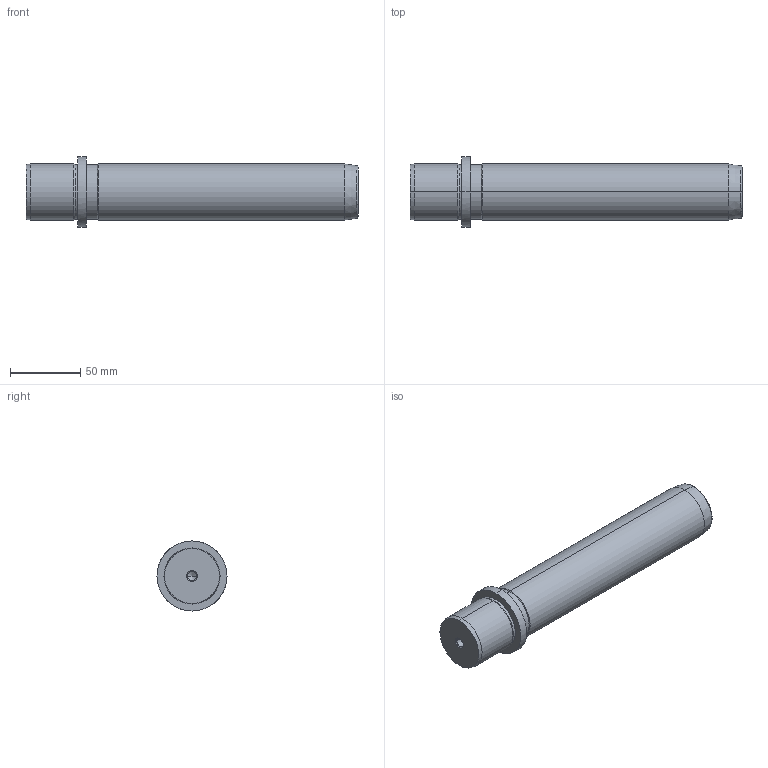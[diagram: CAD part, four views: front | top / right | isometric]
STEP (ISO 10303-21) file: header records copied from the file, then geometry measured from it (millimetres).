
FILE_DESCRIPTION(('CATIA V5 STEP Exchange'),'2;1');
FILE_NAME('C:\Users\Utente\Desktop\IO LAVORO\3D X SITO CF\X SITO\718\718-40x200.stp','2021-01-02T12:41:52+00:00',('none'),('none'),'CATIA Version 5 Release 20 GA (IN-10)','CATIA V5 STEP AP203','none');
FILE_SCHEMA(('CONFIG_CONTROL_DESIGN'));
Length unit declared in the file: millimetre
Products named in the file (1): 718-40x200
Bounding box: 237 x 50 x 50 mm (x, y, z)
Volume: 298804.9 mm3; surface area: 34748.5 mm2
Topology: 1 solids, 1 shells, 36 faces, 100 edges, 66 vertices
Faces by surface type: cone 16, cylinder 14, plane 4, torus 2
Entity records: 1291 total; most frequent: CARTESIAN_POINT 362, ORIENTED_EDGE 192, DIRECTION 157, EDGE_CURVE 96, AXIS2_PLACEMENT_3D 92, VERTEX_POINT 66, CIRCLE 55, EDGE_LOOP 40
